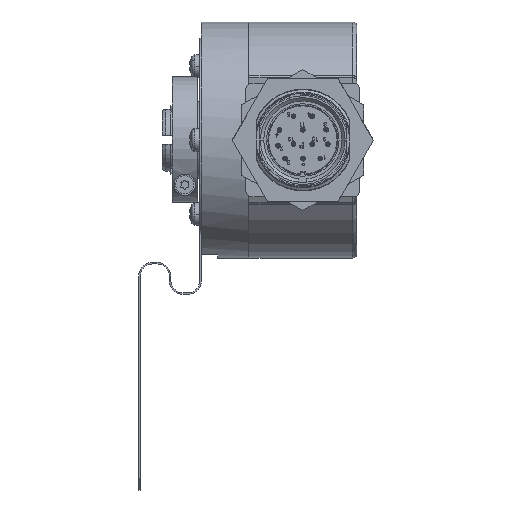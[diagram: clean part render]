
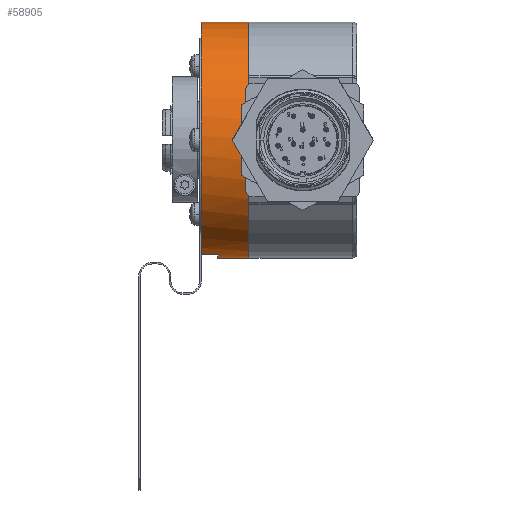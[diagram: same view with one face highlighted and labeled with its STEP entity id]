
A CAD part, front view. The second image highlights one B-rep face of the part: STEP entity #58905.
In plain terms, the highlighted cylindrical face has radius 29 mm (diameter 58 mm), a partial arc.
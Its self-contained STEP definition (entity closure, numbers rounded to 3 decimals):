
#579 = EDGE_CURVE ( 'NONE', #63974, #22098, #11898, .T. ) ;
#1574 = CIRCLE ( 'NONE', #29160, 29. ) ;
#2275 = VECTOR ( 'NONE', #59464, 1000. ) ;
#3417 = DIRECTION ( 'NONE',  ( 1., 0., 0. ) ) ;
#4943 = VECTOR ( 'NONE', #67331, 1000. ) ;
#8169 = ORIENTED_EDGE ( 'NONE', *, *, #9226, .T. ) ;
#8784 = ORIENTED_EDGE ( 'NONE', *, *, #11114, .F. ) ;
#9226 = EDGE_CURVE ( 'NONE', #47241, #40017, #10621, .T. ) ;
#10379 = DIRECTION ( 'NONE',  ( 0., 0., -1. ) ) ;
#10621 = CIRCLE ( 'NONE', #61142, 29. ) ;
#11114 = EDGE_CURVE ( 'NONE', #32073, #26883, #1574, .T. ) ;
#11898 = CIRCLE ( 'NONE', #39758, 29. ) ;
#12445 = CARTESIAN_POINT ( 'NONE',  ( -3.622, 25.423, 29. ) ) ;
#15146 = CARTESIAN_POINT ( 'NONE',  ( 0.378, 25.423, -29. ) ) ;
#15222 = CARTESIAN_POINT ( 'NONE',  ( 8.068, 25.423, 29. ) ) ;
#15395 = EDGE_CURVE ( 'NONE', #40017, #26883, #50762, .T. ) ;
#18190 = AXIS2_PLACEMENT_3D ( 'NONE', #49015, #42941, #21674 ) ;
#18408 = LINE ( 'NONE', #24127, #4943 ) ;
#20027 = ORIENTED_EDGE ( 'NONE', *, *, #25505, .F. ) ;
#21674 = DIRECTION ( 'NONE',  ( 0., 0., -1. ) ) ;
#22098 = VERTEX_POINT ( 'NONE', #49174 ) ;
#23425 = DIRECTION ( 'NONE',  ( 1., 0., 0. ) ) ;
#24127 = CARTESIAN_POINT ( 'NONE',  ( 8.068, 18.423, -28.142 ) ) ;
#25505 = EDGE_CURVE ( 'NONE', #63974, #32073, #37549, .T. ) ;
#26004 = FACE_OUTER_BOUND ( 'NONE', #49754, .T. ) ;
#26883 = VERTEX_POINT ( 'NONE', #57881 ) ;
#29160 = AXIS2_PLACEMENT_3D ( 'NONE', #70847, #67456, #10379 ) ;
#32073 = VERTEX_POINT ( 'NONE', #58464 ) ;
#35119 = CARTESIAN_POINT ( 'NONE',  ( -3.622, 25.423, 0. ) ) ;
#37017 = CARTESIAN_POINT ( 'NONE',  ( 0.378, 25.423, 0. ) ) ;
#37549 = LINE ( 'NONE', #15222, #2275 ) ;
#39758 = AXIS2_PLACEMENT_3D ( 'NONE', #35119, #3417, #51629 ) ;
#40017 = VERTEX_POINT ( 'NONE', #15146 ) ;
#42941 = DIRECTION ( 'NONE',  ( 1., 0., 0. ) ) ;
#47241 = VERTEX_POINT ( 'NONE', #68098 ) ;
#49015 = CARTESIAN_POINT ( 'NONE',  ( 8.068, 25.423, 0. ) ) ;
#49174 = CARTESIAN_POINT ( 'NONE',  ( -3.622, 18.423, -28.142 ) ) ;
#49534 = ORIENTED_EDGE ( 'NONE', *, *, #15395, .T. ) ;
#49754 = EDGE_LOOP ( 'NONE', ( #20027, #56391, #62083, #8169, #49534, #8784 ) ) ;
#50762 = LINE ( 'NONE', #51817, #67042 ) ;
#51629 = DIRECTION ( 'NONE',  ( 0., 0., -1. ) ) ;
#51817 = CARTESIAN_POINT ( 'NONE',  ( 8.068, 25.423, -29. ) ) ;
#51907 = EDGE_CURVE ( 'NONE', #47241, #22098, #18408, .T. ) ;
#56391 = ORIENTED_EDGE ( 'NONE', *, *, #579, .T. ) ;
#57881 = CARTESIAN_POINT ( 'NONE',  ( 8.068, 25.423, -29. ) ) ;
#58464 = CARTESIAN_POINT ( 'NONE',  ( 8.068, 25.423, 29. ) ) ;
#58905 = ADVANCED_FACE ( 'NONE', ( #26004 ), #64502, .T. ) ;
#59464 = DIRECTION ( 'NONE',  ( 1., 0., 0. ) ) ;
#61142 = AXIS2_PLACEMENT_3D ( 'NONE', #37017, #64356, #68707 ) ;
#62083 = ORIENTED_EDGE ( 'NONE', *, *, #51907, .F. ) ;
#63974 = VERTEX_POINT ( 'NONE', #12445 ) ;
#64356 = DIRECTION ( 'NONE',  ( 1., 0., 0. ) ) ;
#64502 = CYLINDRICAL_SURFACE ( 'NONE', #18190, 29. ) ;
#67042 = VECTOR ( 'NONE', #23425, 1000. ) ;
#67331 = DIRECTION ( 'NONE',  ( -1., 0., 0. ) ) ;
#67456 = DIRECTION ( 'NONE',  ( 1., 0., 0. ) ) ;
#68098 = CARTESIAN_POINT ( 'NONE',  ( 0.378, 18.423, -28.142 ) ) ;
#68707 = DIRECTION ( 'NONE',  ( 0., 0., 1. ) ) ;
#70847 = CARTESIAN_POINT ( 'NONE',  ( 8.068, 25.423, 0. ) ) ;
